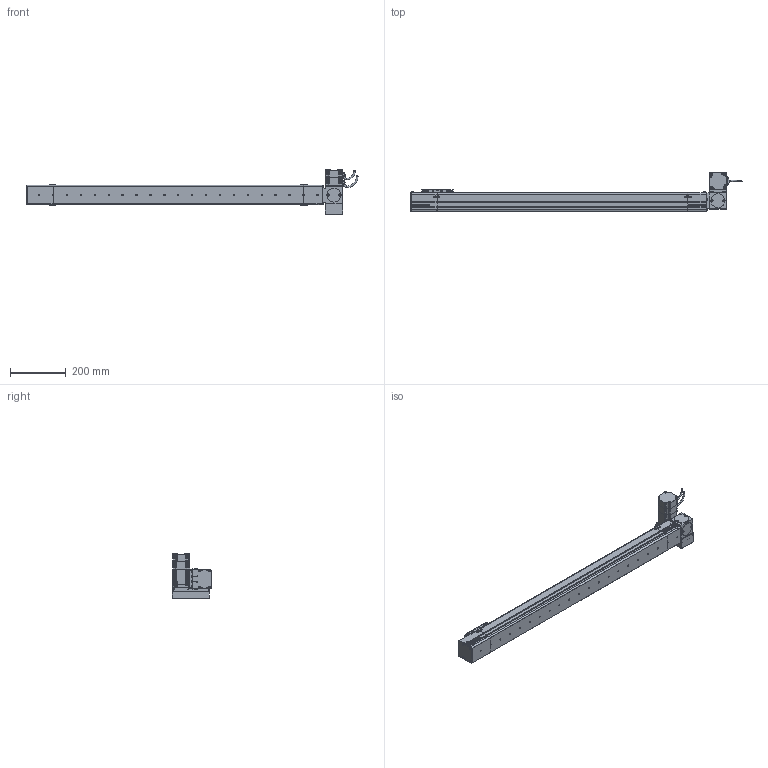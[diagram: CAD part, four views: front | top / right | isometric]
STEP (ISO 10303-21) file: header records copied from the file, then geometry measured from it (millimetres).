
FILE_DESCRIPTION (( 'STEP AP214' ), '1' );
FILE_NAME ('S07 CBN RT S900.STEP', '2010-06-29T10:13:11', ( 'Conseil Régional Haute-Normandie' ), ( 'Conseil Régional Haute-Normandie' ), 'SwSTEP 2.0', 'SolidWorks 2010', '' );
FILE_SCHEMA (( 'AUTOMOTIVE_DESIGN' ));
Length unit declared in the file: millimetre
Products named in the file (31): vis M5 L8_Default; support chariot_Default; chariot_Default; Chariot S07_Default; Couvercle Tail_Default; Corp Tail_Default; Tail S07 Tail_Default; vis M5 L15_Default; plaque de serrage Tail_Default; Plaque de bout Tail_Default; Couvercle S07 S900_Default; S07 CBN RT S900; Head RT_Default; Couvercle RT_Default; Corp RT_Default; Rondelle de Serrage RT_Default; plaque de serrage RT_Default; Plaque de bout RT_Default; P1_Default; 60BLDC90A-640_Default; Support Moteur RT_Default; Cache Support Moteur RT_Default; P4_Default; P3 90A_Default; P2 90A_Default; Conecteur2 60BLDC_Default; Conecteur 60BLDC_Default; Axe 60BLDC_Default; Corp S07 S900_Default; VisM3_Default
Assembly tree (71 placements, depth 4):
  S07 CBN RT S900
    Head RT_Default
      vis M5 L15_Default  x16
      60BLDC90A-640_Default
        P1_Default
        Conecteur2 60BLDC_Default
        Axe 60BLDC_Default
        VisM3_Default  x12
        P4_Default
        P3 90A_Default
        P2 90A_Default
        Conecteur 60BLDC_Default
      Couvercle RT_Default
      plaque de serrage RT_Default
      Rondelle de Serrage RT_Default  x3
      Support Moteur RT_Default
      Plaque de bout RT_Default
      Corp RT_Default
      Cache Support Moteur RT_Default
    Tail S07 Tail_Default
      Corp Tail_Default
      vis M5 L15_Default  x6
      plaque de serrage Tail_Default
      Couvercle Tail_Default
      Plaque de bout Tail_Default
    Corp S07 S900_Default
      Corp S07 S900_Default
      Couvercle S07 S900_Default
    Chariot S07_Default
      vis M5 L8_Default  x8
      support chariot_Default
      chariot_Default
Bounding box: 1193.2 x 141 x 162 mm (x, y, z)
Volume: 5652271.8 mm3; surface area: 718981 mm2
Topology: 108 solids, 108 shells, 3904 faces, 9614 edges, 6188 vertices
Faces by surface type: plane 2254, bspline 756, cylinder 683, torus 112, cone 95, sphere 4
Entity records: 153673 total; most frequent: CARTESIAN_POINT 79643, ORIENTED_EDGE 14748, DIRECTION 11027, EDGE_CURVE 7374, VERTEX_POINT 4873, VECTOR 4781, LINE 4781, EDGE_LOOP 3165
